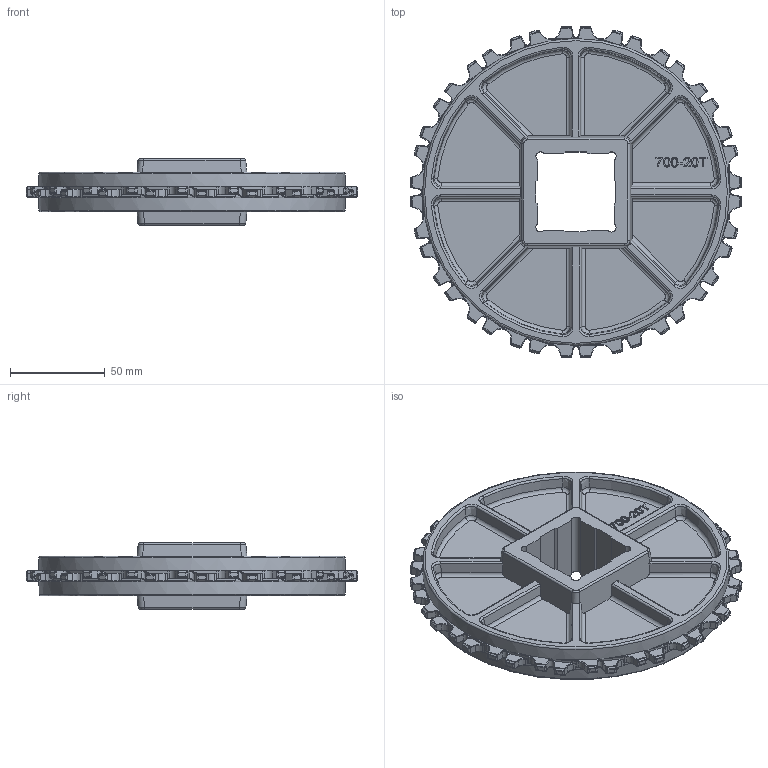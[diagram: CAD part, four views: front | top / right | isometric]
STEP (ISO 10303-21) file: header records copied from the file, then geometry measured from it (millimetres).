
FILE_DESCRIPTION(/* description */ (''),/* implementation_level */ '2;1');
FILE_NAME(/* name */ 'HS-700A-N-20T.stp',/* time_stamp */ '2025-09-12T10:44:02+08:00',/* author */ (''),/* organization */ (''),/* preprocessor_version */ 'ST-DEVELOPER v15',/* originating_system */ 'SIEMENS PLM Software NX 8.5',/* authorisation */ '');
FILE_SCHEMA (('AP203_CONFIGURATION_CONTROLLED_3D_DESIGN_OF_MECHANICAL_PARTS_AND_ASSEMBLIES_MIM_LF { 1 0 10303 403 2 1 2}'));
Products named in the file (1): Admi2A20536371p2
Bounding box: 175 x 175 x 34.99 mm (x, y, z)
Volume: 226763.8 mm3; surface area: 77766.4 mm2
Topology: 1 solids, 1 shells, 2191 faces, 5367 edges, 3185 vertices
Faces by surface type: cylinder 906, bspline 567, plane 511, torus 174, extrusion 17, cone 16
Full cylindrical faces by diameter (mm): 161.535 x2
Entity records: 75304 total; most frequent: CARTESIAN_POINT 26197, ORIENTED_EDGE 10700, DIRECTION 10088, EDGE_CURVE 5350, AXIS2_PLACEMENT_3D 3996, VERTEX_POINT 3180, EDGE_LOOP 2206, ADVANCED_FACE 2188
